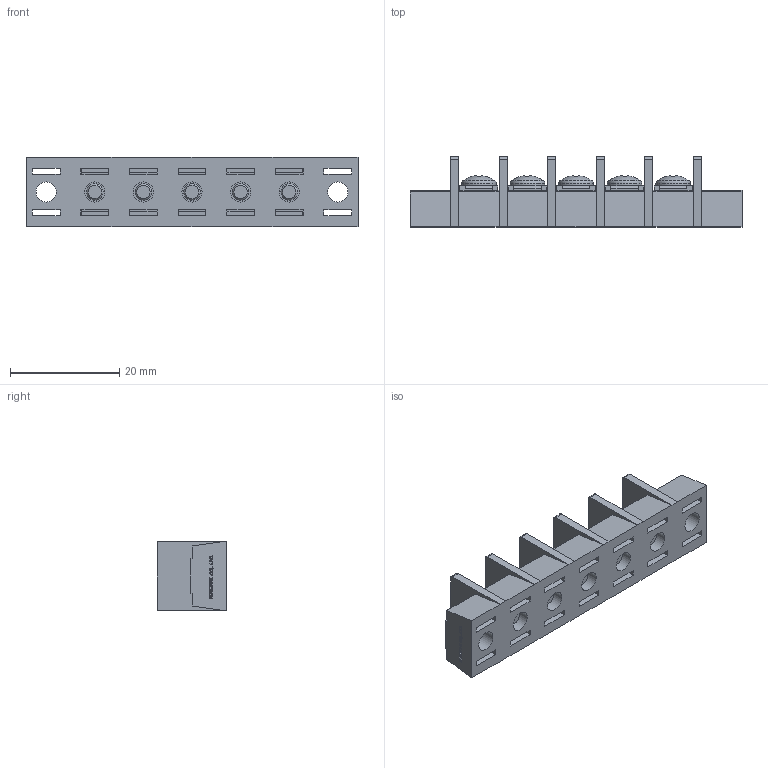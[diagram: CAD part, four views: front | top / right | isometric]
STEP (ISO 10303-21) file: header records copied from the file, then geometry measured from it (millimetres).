
FILE_DESCRIPTION(/* description */ ('Alibre Inc.'),/* implementation_level */ '2;1');
FILE_NAME(/* name */ 'export0',/* time_stamp */ '2015-10-20T20:35:40+09:00',/* author */ (''),/* organization */ (''),/* preprocessor_version */ 'ST-DEVELOPER v14',/* originating_system */ 'Alibre',/* authorisation */ '');
FILE_SCHEMA (('CONFIG_CONTROL_DESIGN'));
Length unit declared in the file: centimetre
Products named in the file (1): ID_1
Bounding box: 60.74 x 12.8 x 12.8 mm (x, y, z)
Volume: 5134.2 mm3; surface area: 6262.1 mm2
Topology: 1 solids, 86 shells, 1797 faces, 4617 edges, 3054 vertices
Faces by surface type: plane 1342, bspline 364, cylinder 51, cone 25, torus 10, sphere 5
Full cylindrical faces by diameter (mm): 3 x10, 3.7 x7, 4.6 x7, 6.3 x5
Entity records: 52223 total; most frequent: CARTESIAN_POINT 12717, ORIENTED_EDGE 9132, DIRECTION 5416, EDGE_CURVE 4566, VECTOR 3539, LINE 3539, VERTEX_POINT 3047, EDGE_LOOP 1985
